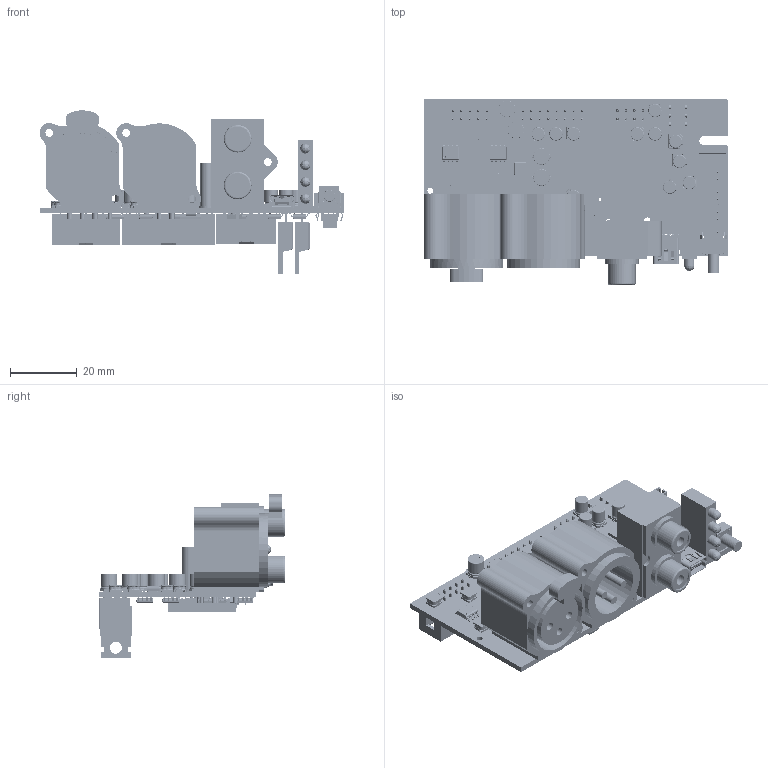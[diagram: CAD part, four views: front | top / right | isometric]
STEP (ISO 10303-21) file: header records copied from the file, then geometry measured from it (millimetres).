
FILE_DESCRIPTION (( 'STEP AP214' ), '1' );
FILE_NAME ('DSP3-213 03xx.STEP', '2023-08-28T14:12:44', ( '' ), ( '' ), 'SwSTEP 2.0', 'SolidWorks 2023', '' );
FILE_SCHEMA (( 'AUTOMOTIVE_DESIGN' ));
Length unit declared in the file: millimetre
Products named in the file (121): User_Library-ALU-C_Korper_1; 65718_5; 882928976; Board; C99; D12; C94; U22; DSP3-213 03xx; 65718_3; SW3dPS-HC49U_Open_CASCADE_STEP_translator_6.2_309.2; T3; U1; L11; U3; J12; U11; B5B-ZR; SW3dPS-HC49U_340983121; C14; SO8_BODY; C100; L6; U24; C55; L12; 65718_7; HC49U; SW3dPS-SOT-89-1; C89; Open_CASCADE_STEP_translator_6.8_2.4.1; 65718_9; U13; U18; SW3dPS-HC49U_Extruded3; 882928840; Open_CASCADE_STEP_translator_6.8_2.1; C91; C87; Open_CASCADE_STEP_translator_6.8_2.2.1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
Assembly tree (205 placements, depth 8):
  DSP3-213 03xx
    Board
    U4
      882928704
        Extruded
    C66
      User_Library-ALU-B
        User_Library-ALU-B_Pins_1
        User_Library-ALU-B_Fuss_1
        User_Library-ALU-B_K_X_F6rper_1
        User_Library-ALU-B_Beschriftung_1
    U3
      882929248
        Extruded_2
    J6
      Con_2x10p_FV_2mm_PCB_Molex_H=4.4mm
    J3
      BOXHEADER_2X08
    J7
      65718
      65718_2
      65718_3
      65718_4
      65718_5
      65718_6
      65718_7
      65718_8
      65718_9
    J12
      BOXHEADER_2X05
    U7
      SO8
        SO8_PIN  x8
        SO8_BODY
    U8
      SOIC14
    U16
      SO8
        SO8_PIN  x8
        SO8_BODY
    U17
      SO8
        SO8_PIN  x8
        SO8_BODY
    U18
      SO8
        SO8_PIN  x8
        SO8_BODY
    U19
      SO8
        SO8_PIN  x8
        SO8_BODY
    U21
      SO8
        SO8_PIN  x8
        SO8_BODY
    U22
      SO8
        SO8_PIN  x8
        SO8_BODY
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Bounding box: 91.38 x 55.8 x 48.88 mm (x, y, z)
Volume: 39262 mm3; surface area: 35890.9 mm2
Topology: 283 solids, 299 shells, 12043 faces, 30109 edges, 18806 vertices
Faces by surface type: plane 7216, cylinder 2804, bspline 1373, torus 426, sphere 208, cone 16
Entity records: 154167 total; most frequent: CARTESIAN_POINT 36886, ORIENTED_EDGE 23848, DIRECTION 22656, EDGE_CURVE 11931, VECTOR 9186, LINE 9186, VERTEX_POINT 7625, AXIS2_PLACEMENT_3D 6735
